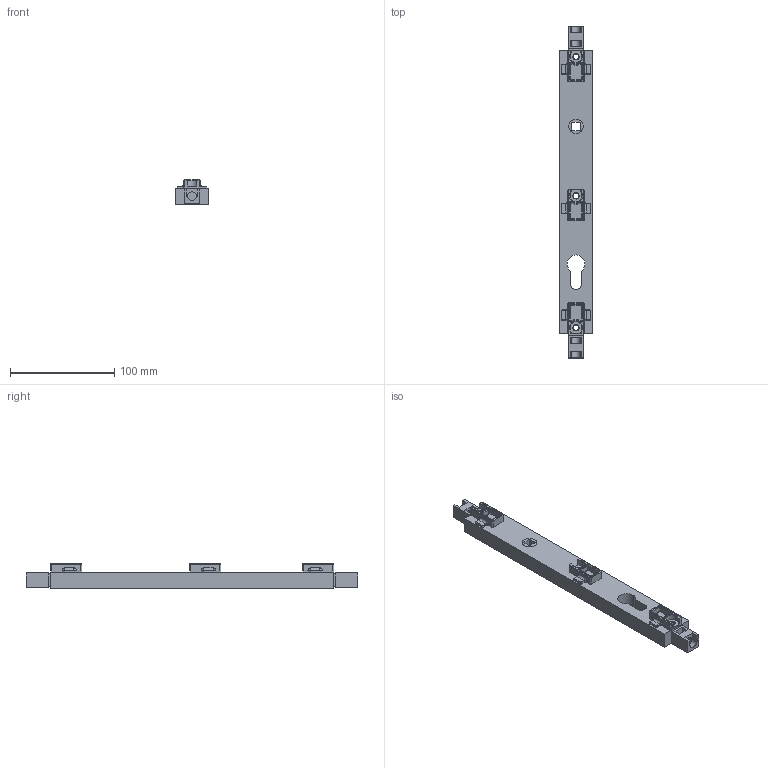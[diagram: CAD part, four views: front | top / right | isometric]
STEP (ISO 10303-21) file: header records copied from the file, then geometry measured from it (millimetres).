
FILE_DESCRIPTION (( 'STEP AP214' ), '1' );
FILE_NAME ('TPL-H-106-A 23Sep2024.STEP', '2024-09-23T05:43:07', ( '' ), ( '' ), 'SwSTEP 2.0', 'SolidWorks 2023', '' );
FILE_SCHEMA (( 'AUTOMOTIVE_DESIGN' ));
Length unit declared in the file: millimetre
Products named in the file (5): Copy of TPL-H-506^TPL-H-605 23Sep2024; Copy (2) of TPLGen2 lock body keyed assembly^TPL-H-605 23Sep2024_Bolts retracted - left; Copy of TPLGen2 lock body keyed^Copy (2) of TPLGen2 lock body keyed assembly_TPL-H-605 23Sep2024_Left; Copy of TPLGen2 push rod - simplified^Copy (2) of TPLGen2 lock body keyed assembly_TPL-H-605 23Sep2024_Female thread M10; TPL-H-106-A 23Sep2024
Assembly tree (7 placements, depth 3):
  TPL-H-106-A 23Sep2024
    Copy (2) of TPLGen2 lock body keyed assembly^TPL-H-605 23Sep2024_Bolts retracted - left
      Copy of TPLGen2 lock body keyed^Copy (2) of TPLGen2 lock body keyed assembly_TPL-H-605 23Sep2024_Left
      Copy of TPLGen2 push rod - simplified^Copy (2) of TPLGen2 lock body keyed assembly_TPL-H-605 23Sep2024_Female thread M10  x2
    Copy of TPL-H-506^TPL-H-605 23Sep2024  x3
Bounding box: 32 x 318.6 x 23.5 mm (x, y, z)
Volume: 139023.7 mm3; surface area: 47429.3 mm2
Topology: 6 solids, 6 shells, 611 faces, 1521 edges, 940 vertices
Faces by surface type: plane 251, cylinder 226, torus 63, bspline 48, sphere 21, cone 2
Entity records: 9142 total; most frequent: CARTESIAN_POINT 2381, DIRECTION 1423, ORIENTED_EDGE 1338, EDGE_CURVE 669, AXIS2_PLACEMENT_3D 518, VERTEX_POINT 424, LINE 387, VECTOR 387
